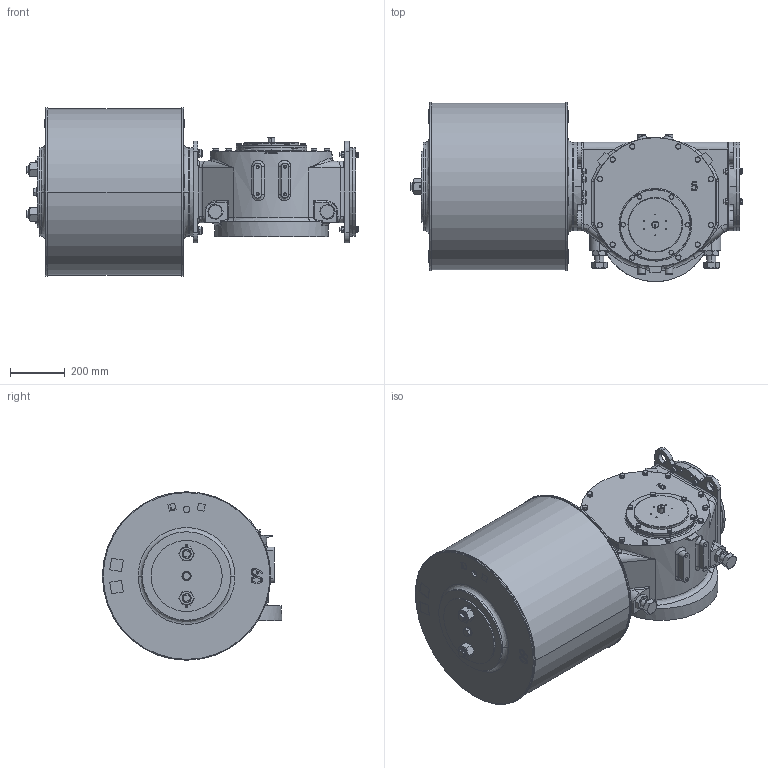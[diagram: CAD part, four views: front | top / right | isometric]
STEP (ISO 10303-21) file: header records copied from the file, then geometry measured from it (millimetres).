
FILE_DESCRIPTION (( 'STEP AP203' ), '1' );
FILE_NAME ('VTS5-600.STEP', '2023-01-01T09:51:11', ( '' ), ( '' ), 'SwSTEP 2.0', 'SolidWorks 2020', '' );
FILE_SCHEMA (( 'CONFIG_CONTROL_DESIGN' ));
Length unit declared in the file: millimetre
Products named in the file (1): VTS5-600
Bounding box: 1214.68 x 655.5 x 616 mm (x, y, z)
Volume: 216642470.5 mm3; surface area: 3414547.3 mm2
Topology: 3 solids, 5 shells, 1988 faces, 5092 edges, 3209 vertices
Faces by surface type: plane 834, cylinder 609, cone 456, bspline 89
Entity records: 73624 total; most frequent: CARTESIAN_POINT 26396, ORIENTED_EDGE 10040, DIRECTION 9728, EDGE_CURVE 5020, AXIS2_PLACEMENT_3D 3850, VERTEX_POINT 3209, EDGE_LOOP 2247, VECTOR 2028
